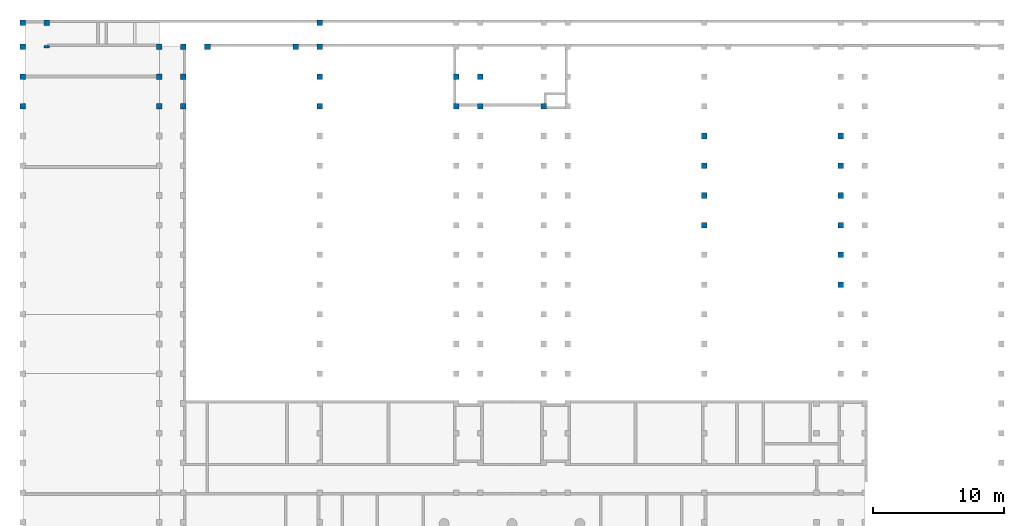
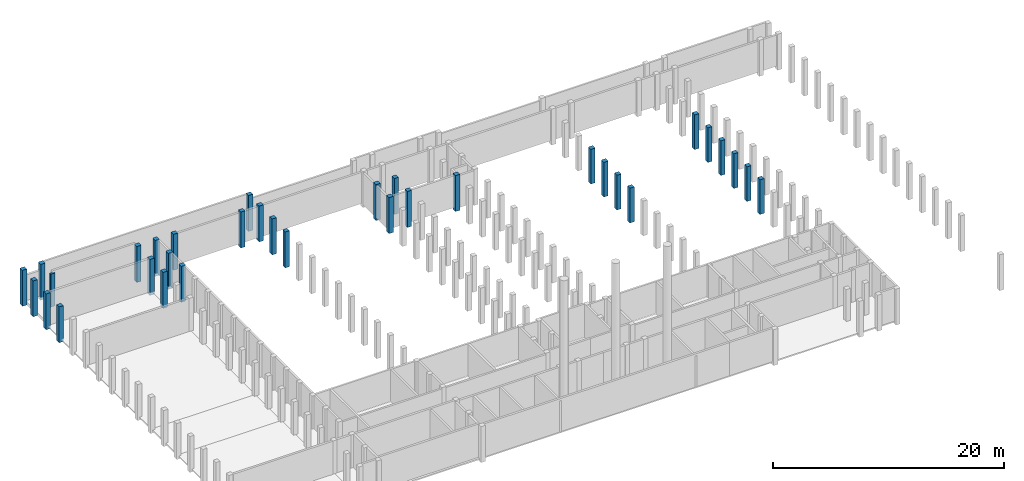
# One storey, part 5 of 9: 34 columns.
"""IFC2X3 building model written with IfcOpenShell, lengths in millimetres."""

from ifc_helpers import new_model, entity, si_unit, converted_unit, derived_unit, direction, frame, frame_2d, origin, origin_2d_with_axis, place, context, subcontext, project, spatial, polyline, rectangle, outline, extrude, source, transform, mapped, material, type_object, type_shapes, element, save


model = new_model("IFC2X3")

# Units and contexts
model_context = context("Model", 3, precision=0.01, world=origin(), true_north=direction((6.12303176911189e-17, 1.0)))
body_context = subcontext(model_context, "Body", "Model", "MODEL_VIEW")
ifc_project = project(units=[si_unit("LENGTHUNIT", "METRE", prefix="MILLI"), si_unit("AREAUNIT", "SQUARE_METRE"), si_unit("VOLUMEUNIT", "CUBIC_METRE"), converted_unit("PLANEANGLEUNIT", "DEGREE", entity("IfcRatioMeasure", 0.0174532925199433), si_unit("PLANEANGLEUNIT", "RADIAN"), dimensions=[0, 0, 0, 0, 0, 0, 0]), si_unit("MASSUNIT", "GRAM", prefix="KILO"), derived_unit("MASSDENSITYUNIT", [(si_unit("MASSUNIT", "GRAM", prefix="KILO"), 1), (si_unit("LENGTHUNIT", "METRE"), -3)]), derived_unit("MOMENTOFINERTIAUNIT", [(si_unit("LENGTHUNIT", "METRE"), 4)]), si_unit("TIMEUNIT", "SECOND"), si_unit("FREQUENCYUNIT", "HERTZ"), si_unit("THERMODYNAMICTEMPERATUREUNIT", "DEGREE_CELSIUS"), derived_unit("THERMALTRANSMITTANCEUNIT", [(si_unit("MASSUNIT", "GRAM", prefix="KILO"), 1), (si_unit("THERMODYNAMICTEMPERATUREUNIT", "KELVIN"), -1), (si_unit("TIMEUNIT", "SECOND"), -3)]), derived_unit("VOLUMETRICFLOWRATEUNIT", [(si_unit("LENGTHUNIT", "METRE"), 3), (si_unit("TIMEUNIT", "SECOND"), -1)]), si_unit("ELECTRICCURRENTUNIT", "AMPERE"), si_unit("ELECTRICVOLTAGEUNIT", "VOLT"), si_unit("POWERUNIT", "WATT"), si_unit("FORCEUNIT", "NEWTON", prefix="KILO"), si_unit("ILLUMINANCEUNIT", "LUX"), si_unit("LUMINOUSFLUXUNIT", "LUMEN"), si_unit("LUMINOUSINTENSITYUNIT", "CANDELA"), derived_unit("USERDEFINED", [(si_unit("MASSUNIT", "GRAM", prefix="KILO"), -1), (si_unit("LENGTHUNIT", "METRE"), -2), (si_unit("TIMEUNIT", "SECOND"), 3), (si_unit("LUMINOUSFLUXUNIT", "LUMEN"), 1)]), derived_unit("LINEARVELOCITYUNIT", [(si_unit("LENGTHUNIT", "METRE"), 1), (si_unit("TIMEUNIT", "SECOND"), -1)]), si_unit("PRESSUREUNIT", "PASCAL"), derived_unit("USERDEFINED", [(si_unit("LENGTHUNIT", "METRE"), -2), (si_unit("MASSUNIT", "GRAM", prefix="KILO"), 1), (si_unit("TIMEUNIT", "SECOND"), -2)]), derived_unit("LINEARFORCEUNIT", [(si_unit("MASSUNIT", "GRAM", prefix="KILO"), 1), (si_unit("LENGTHUNIT", "METRE"), 1), (si_unit("TIMEUNIT", "SECOND"), -2), (si_unit("LENGTHUNIT", "METRE"), -1)]), derived_unit("PLANARFORCEUNIT", [(si_unit("MASSUNIT", "GRAM", prefix="KILO"), 1), (si_unit("LENGTHUNIT", "METRE"), 1), (si_unit("TIMEUNIT", "SECOND"), -2), (si_unit("LENGTHUNIT", "METRE"), -2)])], contexts=[model_context])

# Site, building, storey
site_placement = place(None, frame((10627.5135316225, 21939.0796949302, 0.0)))
site = spatial("IfcSite", under=ifc_project, at=site_placement, Name="Default", CompositionType="ELEMENT")
building_placement = place(site_placement, origin())
building = spatial("IfcBuilding", under=site, at=building_placement, CompositionType="ELEMENT")
storey_placement = place(building_placement, frame((0.0, 0.0, -3500.0)))
storey = spatial("IfcBuildingStorey", under=building, at=storey_placement, Name="R-1", CompositionType="ELEMENT", Elevation=-3500.0)

# Columns
ifc_material_1 = material(Name="Concrete, Precast Smooth, Light Grey")
column_type_1 = type_object("IfcColumnType", Name="M_Precast-Square Column:430x430", PredefinedType="COLUMN", material=ifc_material_1)
shared_shape_1 = source(origin(), body_context, "Body", "SweptSolid", [
    extrude(rectangle(XDim=430.0, YDim=430.000000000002, at=frame_2d((0.0, -1.08002495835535e-12), x_axis=(1.0, 0.0))), frame((-10627.5135316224, 18310.9203050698, -3800.0), z_axis=(0.0, 0.0, 1.0), x_axis=(0.0, -1.0, 0.0)), (0.0, 0.0, 1.0), 3800.0),
])
type_shapes(column_type_1, [shared_shape_1])
column_1_placement = place(storey_placement, frame((0.0, 0.0, 3500.0)))
element("IfcColumn", 1, at=column_1_placement, inside=storey, type_object=column_type_1, material=ifc_material_1, Name="M_Precast-Square Column:430x430", ObjectType="M_Precast-Square Column:430x430", context=body_context, shape_type="MappedRepresentation", body=[
    mapped(shared_shape_1, transform((0.0, 0.0, 0.0), scale=1.0)),
])
column_type_2 = type_object("IfcColumnType", Name="M_Precast-Square Column:430x430", PredefinedType="COLUMN", material=ifc_material_1)
shared_shape_2 = source(origin(), body_context, "Body", "SweptSolid", [
    extrude(rectangle(XDim=430.0, YDim=429.999999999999, at=frame_2d((0.0, 5.40012479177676e-13), x_axis=(1.0, 0.0))), frame((-8797.51353162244, 18310.9203050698, -3800.0), z_axis=(0.0, 0.0, 1.0), x_axis=(0.0, -1.0, 0.0)), (0.0, 0.0, 1.0), 3800.0),
])
type_shapes(column_type_2, [shared_shape_2])
column_2_placement = place(storey_placement, frame((0.0, 0.0, 3500.0)))
element("IfcColumn", 2, at=column_2_placement, inside=storey, type_object=column_type_2, material=ifc_material_1, Name="M_Precast-Square Column:430x430", ObjectType="M_Precast-Square Column:430x430", context=body_context, shape_type="MappedRepresentation", body=[
    mapped(shared_shape_2, transform((0.0, 0.0, 0.0), scale=1.0)),
])
column_type_3 = type_object("IfcColumnType", Name="M_Precast-Square Column:430x430", PredefinedType="COLUMN", material=ifc_material_1)
shared_shape_3 = source(origin(), body_context, "Body", "SweptSolid", [
    extrude(rectangle(XDim=430.0, YDim=430.000000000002, at=frame_2d((0.0, -1.08002495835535e-12), x_axis=(1.0, 0.0))), frame((-10627.5135316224, 16480.9203050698, -3800.0), z_axis=(0.0, 0.0, 1.0), x_axis=(0.0, -1.0, 0.0)), (0.0, 0.0, 1.0), 3800.0),
])
type_shapes(column_type_3, [shared_shape_3])
column_3_placement = place(storey_placement, frame((0.0, 0.0, 3500.0)))
element("IfcColumn", 3, at=column_3_placement, inside=storey, type_object=column_type_3, material=ifc_material_1, Name="M_Precast-Square Column:430x430", ObjectType="M_Precast-Square Column:430x430", context=body_context, shape_type="MappedRepresentation", body=[
    mapped(shared_shape_3, transform((0.0, 0.0, 0.0), scale=1.0)),
])
column_type_4 = type_object("IfcColumnType", Name="M_Precast-Square Column:430x430", PredefinedType="COLUMN", material=ifc_material_1)
shared_shape_4 = source(origin(), body_context, "Body", "SweptSolid", [
    extrude(rectangle(XDim=430.0, YDim=430.000000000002, at=frame_2d((2.1600499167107e-12, -1.08002495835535e-12), x_axis=(1.0, 0.0))), frame((-10627.5135316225, 14220.9203050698, -3800.0), z_axis=(0.0, 0.0, 1.0), x_axis=(0.0, -1.0, 0.0)), (0.0, 0.0, 1.0), 3800.0),
])
type_shapes(column_type_4, [shared_shape_4])
column_4_placement = place(storey_placement, frame((0.0, 0.0, 3500.0)))
element("IfcColumn", 4, at=column_4_placement, inside=storey, type_object=column_type_4, material=ifc_material_1, Name="M_Precast-Square Column:430x430", ObjectType="M_Precast-Square Column:430x430", context=body_context, shape_type="MappedRepresentation", body=[
    mapped(shared_shape_4, transform((0.0, 0.0, 0.0), scale=1.0)),
])
column_type_5 = type_object("IfcColumnType", Name="M_Precast-Square Column:430x430", PredefinedType="COLUMN", material=ifc_material_1)
shared_shape_5 = source(origin(), body_context, "Body", "SweptSolid", [
    extrude(rectangle(XDim=430.0, YDim=430.000000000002, at=frame_2d((0.0, -1.08002495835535e-12), x_axis=(1.0, 0.0))), frame((-10627.5135316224, 11960.9203050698, -3800.0), z_axis=(0.0, 0.0, 1.0), x_axis=(0.0, -1.0, 0.0)), (0.0, 0.0, 1.0), 3800.0),
])
type_shapes(column_type_5, [shared_shape_5])
column_5_placement = place(storey_placement, frame((0.0, 0.0, 3500.0)))
element("IfcColumn", 5, at=column_5_placement, inside=storey, type_object=column_type_5, material=ifc_material_1, Name="M_Precast-Square Column:430x430", ObjectType="M_Precast-Square Column:430x430", context=body_context, shape_type="MappedRepresentation", body=[
    mapped(shared_shape_5, transform((0.0, 0.0, 0.0), scale=1.0)),
])
column_type_6 = type_object("IfcColumnType", Name="M_Precast-Square Column:430x430", PredefinedType="COLUMN", material=ifc_material_1)
shared_shape_6 = source(origin(), body_context, "Body", "SweptSolid", [
    extrude(rectangle(XDim=430.0, YDim=430.0, at=frame_2d((2.1600499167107e-12, 0.0), x_axis=(1.0, 0.0))), frame((-247.513531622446, 16480.9203050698, -3800.0), z_axis=(0.0, 0.0, 1.0), x_axis=(0.0, -1.0, 0.0)), (0.0, 0.0, 1.0), 3800.0),
])
type_shapes(column_type_6, [shared_shape_6])
column_6_placement = place(storey_placement, frame((0.0, 0.0, 3500.0)))
element("IfcColumn", 6, at=column_6_placement, inside=storey, type_object=column_type_6, material=ifc_material_1, Name="M_Precast-Square Column:430x430", ObjectType="M_Precast-Square Column:430x430", context=body_context, shape_type="MappedRepresentation", body=[
    mapped(shared_shape_6, transform((0.0, 0.0, 0.0), scale=1.0)),
])
column_type_7 = type_object("IfcColumnType", Name="M_Precast-Square Column:430x430", PredefinedType="COLUMN", material=ifc_material_1)
shared_shape_7 = source(origin(), body_context, "Body", "SweptSolid", [
    extrude(rectangle(XDim=430.0, YDim=430.0, at=origin_2d_with_axis()), frame((-247.51353162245, 14220.9203050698, -3800.0), z_axis=(0.0, 0.0, 1.0), x_axis=(0.0, -1.0, 0.0)), (0.0, 0.0, 1.0), 3800.0),
])
type_shapes(column_type_7, [shared_shape_7])
column_7_placement = place(storey_placement, frame((0.0, 0.0, 3500.0)))
element("IfcColumn", 7, at=column_7_placement, inside=storey, type_object=column_type_7, material=ifc_material_1, Name="M_Precast-Square Column:430x430", ObjectType="M_Precast-Square Column:430x430", context=body_context, shape_type="MappedRepresentation", body=[
    mapped(shared_shape_7, transform((0.0, 0.0, 0.0), scale=1.0)),
])
column_type_8 = type_object("IfcColumnType", Name="M_Precast-Square Column:430x430", PredefinedType="COLUMN", material=ifc_material_1)
shared_shape_8 = source(origin(), body_context, "Body", "SweptSolid", [
    extrude(rectangle(XDim=430.0, YDim=430.0, at=frame_2d((2.1600499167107e-12, 0.0), x_axis=(1.0, 0.0))), frame((-247.513531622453, 11960.9203050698, -3800.0), z_axis=(0.0, 0.0, 1.0), x_axis=(0.0, -1.0, 0.0)), (0.0, 0.0, 1.0), 3800.0),
])
type_shapes(column_type_8, [shared_shape_8])
column_8_placement = place(storey_placement, frame((0.0, 0.0, 3500.0)))
element("IfcColumn", 8, at=column_8_placement, inside=storey, type_object=column_type_8, material=ifc_material_1, Name="M_Precast-Square Column:430x430", ObjectType="M_Precast-Square Column:430x430", context=body_context, shape_type="MappedRepresentation", body=[
    mapped(shared_shape_8, transform((0.0, 0.0, 0.0), scale=1.0)),
])
column_type_9 = type_object("IfcColumnType", Name="M_Precast-Square Column:430x430", PredefinedType="COLUMN", material=ifc_material_1)
shared_shape_9 = source(origin(), body_context, "Body", "SweptSolid", [
    extrude(rectangle(XDim=430.0, YDim=429.999999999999, at=frame_2d((0.0, 2.8421709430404e-13), x_axis=(1.0, 0.0))), frame((1582.48646837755, 16480.9203050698, -3800.0), z_axis=(0.0, 0.0, 1.0), x_axis=(0.0, -1.0, 0.0)), (0.0, 0.0, 1.0), 3800.0),
])
type_shapes(column_type_9, [shared_shape_9])
column_9_placement = place(storey_placement, frame((0.0, 0.0, 3500.0)))
element("IfcColumn", 9, at=column_9_placement, inside=storey, type_object=column_type_9, material=ifc_material_1, Name="M_Precast-Square Column:430x430", ObjectType="M_Precast-Square Column:430x430", context=body_context, shape_type="MappedRepresentation", body=[
    mapped(shared_shape_9, transform((0.0, 0.0, 0.0), scale=1.0)),
])
column_type_10 = type_object("IfcColumnType", Name="M_Precast-Square Column:430x430", PredefinedType="COLUMN", material=ifc_material_1)
shared_shape_10 = source(origin(), body_context, "Body", "SweptSolid", [
    extrude(rectangle(XDim=430.0, YDim=430.0, at=frame_2d((2.1600499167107e-12, 1.4210854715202e-13), x_axis=(1.0, 0.0))), frame((1582.48646837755, 14220.9203050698, -3800.0), z_axis=(0.0, 0.0, 1.0), x_axis=(0.0, -1.0, 0.0)), (0.0, 0.0, 1.0), 3800.0),
])
type_shapes(column_type_10, [shared_shape_10])
column_10_placement = place(storey_placement, frame((0.0, 0.0, 3500.0)))
element("IfcColumn", 10, at=column_10_placement, inside=storey, type_object=column_type_10, material=ifc_material_1, Name="M_Precast-Square Column:430x430", ObjectType="M_Precast-Square Column:430x430", context=body_context, shape_type="MappedRepresentation", body=[
    mapped(shared_shape_10, transform((0.0, 0.0, 0.0), scale=1.0)),
])
column_type_11 = type_object("IfcColumnType", Name="M_Precast-Square Column:430x430", PredefinedType="COLUMN", material=ifc_material_1)
shared_shape_11 = source(origin(), body_context, "Body", "SweptSolid", [
    extrude(rectangle(XDim=430.0, YDim=430.0, at=frame_2d((0.0, -1.4210854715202e-13), x_axis=(1.0, 0.0))), frame((1582.48646837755, 11960.9203050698, -3800.0), z_axis=(0.0, 0.0, 1.0), x_axis=(0.0, -1.0, 0.0)), (0.0, 0.0, 1.0), 3800.0),
])
type_shapes(column_type_11, [shared_shape_11])
column_11_placement = place(storey_placement, frame((0.0, 0.0, 3500.0)))
element("IfcColumn", 11, at=column_11_placement, inside=storey, type_object=column_type_11, material=ifc_material_1, Name="M_Precast-Square Column:430x430", ObjectType="M_Precast-Square Column:430x430", context=body_context, shape_type="MappedRepresentation", body=[
    mapped(shared_shape_11, transform((0.0, 0.0, 0.0), scale=1.0)),
])
column_type_12 = type_object("IfcColumnType", Name="M_Precast-Square Column:430x430", PredefinedType="COLUMN", material=ifc_material_1)
shared_shape_12 = source(origin(), body_context, "Body", "SweptSolid", [
    extrude(rectangle(XDim=430.0, YDim=430.000000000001, at=frame_2d((0.0, 2.70006239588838e-13), x_axis=(1.0, 0.0))), frame((3412.48646837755, 16480.9203050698, -3800.0), z_axis=(0.0, 0.0, 1.0), x_axis=(0.0, -1.0, 0.0)), (0.0, 0.0, 1.0), 3800.0),
])
type_shapes(column_type_12, [shared_shape_12])
column_12_placement = place(storey_placement, frame((0.0, 0.0, 3500.0)))
element("IfcColumn", 12, at=column_12_placement, inside=storey, type_object=column_type_12, material=ifc_material_1, Name="M_Precast-Square Column:430x430", ObjectType="M_Precast-Square Column:430x430", context=body_context, shape_type="MappedRepresentation", body=[
    mapped(shared_shape_12, transform((0.0, 0.0, 0.0), scale=1.0)),
])
column_type_13 = type_object("IfcColumnType", Name="M_Precast-Square Column:430x430", PredefinedType="COLUMN", material=ifc_material_1)
shared_shape_13 = source(origin(), body_context, "Body", "SweptSolid", [
    extrude(rectangle(XDim=430.0, YDim=430.000000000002, at=frame_2d((0.0, -1.08002495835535e-12), x_axis=(1.0, 0.0))), frame((11962.4864683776, 16480.9203050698, -3800.0), z_axis=(0.0, 0.0, 1.0), x_axis=(0.0, -1.0, 0.0)), (0.0, 0.0, 1.0), 3800.0),
])
type_shapes(column_type_13, [shared_shape_13])
column_13_placement = place(storey_placement, frame((0.0, 0.0, 3500.0)))
element("IfcColumn", 13, at=column_13_placement, inside=storey, type_object=column_type_13, material=ifc_material_1, Name="M_Precast-Square Column:430x430", ObjectType="M_Precast-Square Column:430x430", context=body_context, shape_type="MappedRepresentation", body=[
    mapped(shared_shape_13, transform((0.0, 0.0, 0.0), scale=1.0)),
])
column_type_14 = type_object("IfcColumnType", Name="M_Precast-Square Column:430x430", PredefinedType="COLUMN", material=ifc_material_1)
shared_shape_14 = source(origin(), body_context, "Body", "SweptSolid", [
    extrude(rectangle(XDim=430.0, YDim=430.000000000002, at=frame_2d((2.1600499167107e-12, 1.08002495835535e-12), x_axis=(1.0, 0.0))), frame((11962.4864683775, 14220.9203050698, -3800.0), z_axis=(0.0, 0.0, 1.0), x_axis=(0.0, -1.0, 0.0)), (0.0, 0.0, 1.0), 3800.0),
])
type_shapes(column_type_14, [shared_shape_14])
column_14_placement = place(storey_placement, frame((0.0, 0.0, 3500.0)))
element("IfcColumn", 14, at=column_14_placement, inside=storey, type_object=column_type_14, material=ifc_material_1, Name="M_Precast-Square Column:430x430", ObjectType="M_Precast-Square Column:430x430", context=body_context, shape_type="MappedRepresentation", body=[
    mapped(shared_shape_14, transform((0.0, 0.0, 0.0), scale=1.0)),
])
column_type_15 = type_object("IfcColumnType", Name="M_Precast-Square Column:430x430", PredefinedType="COLUMN", material=ifc_material_1)
shared_shape_15 = source(origin(), body_context, "Body", "SweptSolid", [
    extrude(rectangle(XDim=430.0, YDim=430.000000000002, at=frame_2d((0.0, -1.08002495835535e-12), x_axis=(1.0, 0.0))), frame((11962.4864683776, 18310.9203050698, -3800.0), z_axis=(0.0, 0.0, 1.0), x_axis=(0.0, -1.0, 0.0)), (0.0, 0.0, 1.0), 3800.0),
])
type_shapes(column_type_15, [shared_shape_15])
column_15_placement = place(storey_placement, frame((0.0, 0.0, 3500.0)))
element("IfcColumn", 15, at=column_15_placement, inside=storey, type_object=column_type_15, material=ifc_material_1, Name="M_Precast-Square Column:430x430", ObjectType="M_Precast-Square Column:430x430", context=body_context, shape_type="MappedRepresentation", body=[
    mapped(shared_shape_15, transform((0.0, 0.0, 0.0), scale=1.0)),
])
column_type_16 = type_object("IfcColumnType", Name="M_Precast-Square Column:430x430", PredefinedType="COLUMN", material=ifc_material_1)
shared_shape_16 = source(origin(), body_context, "Body", "SweptSolid", [
    extrude(rectangle(XDim=430.0, YDim=430.000000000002, at=frame_2d((0.0, -1.08002495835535e-12), x_axis=(1.0, 0.0))), frame((11962.4864683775, 11960.9203050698, -3800.0), z_axis=(0.0, 0.0, 1.0), x_axis=(0.0, -1.0, 0.0)), (0.0, 0.0, 1.0), 3800.0),
])
type_shapes(column_type_16, [shared_shape_16])
column_16_placement = place(storey_placement, frame((0.0, 0.0, 3500.0)))
element("IfcColumn", 16, at=column_16_placement, inside=storey, type_object=column_type_16, material=ifc_material_1, Name="M_Precast-Square Column:430x430", ObjectType="M_Precast-Square Column:430x430", context=body_context, shape_type="MappedRepresentation", body=[
    mapped(shared_shape_16, transform((0.0, 0.0, 0.0), scale=1.0)),
])
column_type_17 = type_object("IfcColumnType", Name="M_Precast-Square Column:430x430", PredefinedType="COLUMN", material=ifc_material_1)
shared_shape_17 = source(origin(), body_context, "Body", "SweptSolid", [
    extrude(rectangle(XDim=430.0, YDim=429.999999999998, at=frame_2d((2.1600499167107e-12, 0.0), x_axis=(1.0, 0.0))), frame((22342.4864683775, 14220.9203050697, -3800.0), z_axis=(0.0, 0.0, 1.0), x_axis=(0.0, -1.0, 0.0)), (0.0, 0.0, 1.0), 3800.0),
])
type_shapes(column_type_17, [shared_shape_17])
column_17_placement = place(storey_placement, frame((0.0, 0.0, 3500.0)))
element("IfcColumn", 17, at=column_17_placement, inside=storey, type_object=column_type_17, material=ifc_material_1, Name="M_Precast-Square Column:430x430", ObjectType="M_Precast-Square Column:430x430", context=body_context, shape_type="MappedRepresentation", body=[
    mapped(shared_shape_17, transform((0.0, 0.0, 0.0), scale=1.0)),
])
column_type_18 = type_object("IfcColumnType", Name="M_Precast-Square Column:430x430", PredefinedType="COLUMN", material=ifc_material_1)
shared_shape_18 = source(origin(), body_context, "Body", "SweptSolid", [
    extrude(rectangle(XDim=430.0, YDim=429.999999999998, at=frame_2d((2.1600499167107e-12, 0.0), x_axis=(1.0, 0.0))), frame((22342.4864683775, 11960.9203050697, -3800.0), z_axis=(0.0, 0.0, 1.0), x_axis=(0.0, -1.0, 0.0)), (0.0, 0.0, 1.0), 3800.0),
])
type_shapes(column_type_18, [shared_shape_18])
column_18_placement = place(storey_placement, frame((0.0, 0.0, 3500.0)))
element("IfcColumn", 18, at=column_18_placement, inside=storey, type_object=column_type_18, material=ifc_material_1, Name="M_Precast-Square Column:430x430", ObjectType="M_Precast-Square Column:430x430", context=body_context, shape_type="MappedRepresentation", body=[
    mapped(shared_shape_18, transform((0.0, 0.0, 0.0), scale=1.0)),
])
column_type_19 = type_object("IfcColumnType", Name="M_Precast-Square Column:430x430", PredefinedType="COLUMN", material=ifc_material_1)
shared_shape_19 = source(origin(), body_context, "Body", "SweptSolid", [
    extrude(rectangle(XDim=430.0, YDim=429.999999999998, at=frame_2d((2.1600499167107e-12, 0.0), x_axis=(1.0, 0.0))), frame((24172.4864683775, 14220.9203050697, -3800.0), z_axis=(0.0, 0.0, 1.0), x_axis=(0.0, -1.0, 0.0)), (0.0, 0.0, 1.0), 3800.0),
])
type_shapes(column_type_19, [shared_shape_19])
column_19_placement = place(storey_placement, frame((0.0, 0.0, 3500.0)))
element("IfcColumn", 19, at=column_19_placement, inside=storey, type_object=column_type_19, material=ifc_material_1, Name="M_Precast-Square Column:430x430", ObjectType="M_Precast-Square Column:430x430", context=body_context, shape_type="MappedRepresentation", body=[
    mapped(shared_shape_19, transform((0.0, 0.0, 0.0), scale=1.0)),
])
column_type_20 = type_object("IfcColumnType", Name="M_Precast-Square Column:430x430", PredefinedType="COLUMN", material=ifc_material_1)
shared_shape_20 = source(origin(), body_context, "Body", "SweptSolid", [
    extrude(rectangle(XDim=430.0, YDim=429.999999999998, at=origin_2d_with_axis()), frame((24172.4864683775, 11960.9203050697, -3800.0), z_axis=(0.0, 0.0, 1.0), x_axis=(0.0, -1.0, 0.0)), (0.0, 0.0, 1.0), 3800.0),
])
type_shapes(column_type_20, [shared_shape_20])
column_20_placement = place(storey_placement, frame((0.0, 0.0, 3500.0)))
element("IfcColumn", 20, at=column_20_placement, inside=storey, type_object=column_type_20, material=ifc_material_1, Name="M_Precast-Square Column:430x430", ObjectType="M_Precast-Square Column:430x430", context=body_context, shape_type="MappedRepresentation", body=[
    mapped(shared_shape_20, transform((0.0, 0.0, 0.0), scale=1.0)),
])
column_type_21 = type_object("IfcColumnType", Name="M_Precast-Square Column:430x430", PredefinedType="COLUMN", material=ifc_material_1)
shared_shape_21 = source(origin(), body_context, "Body", "SweptSolid", [
    extrude(rectangle(XDim=430.0, YDim=430.000000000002, at=frame_2d((2.1600499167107e-12, -1.08002495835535e-12), x_axis=(1.0, 0.0))), frame((10132.4864683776, 16480.9203050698, -3800.0), z_axis=(0.0, 0.0, 1.0), x_axis=(0.0, -1.0, 0.0)), (0.0, 0.0, 1.0), 3800.0),
])
type_shapes(column_type_21, [shared_shape_21])
column_21_placement = place(storey_placement, frame((0.0, 0.0, 3500.0)))
element("IfcColumn", 21, at=column_21_placement, inside=storey, type_object=column_type_21, material=ifc_material_1, Name="M_Precast-Square Column:430x430", ObjectType="M_Precast-Square Column:430x430", context=body_context, shape_type="MappedRepresentation", body=[
    mapped(shared_shape_21, transform((0.0, 0.0, 0.0), scale=1.0)),
])
column_type_22 = type_object("IfcColumnType", Name="M_Precast-Square Column:430x430", PredefinedType="COLUMN", material=ifc_material_1)
shared_shape_22 = source(origin(), body_context, "Body", "SweptSolid", [
    extrude(rectangle(XDim=430.0, YDim=429.999999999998, at=frame_2d((-1.08002495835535e-12, 0.0), x_axis=(1.0, 0.0))), frame((28982.4864683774, 11960.9203050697, -3800.0), z_axis=(0.0, 0.0, 1.0), x_axis=(0.0, -1.0, 0.0)), (0.0, 0.0, 1.0), 3800.0),
])
type_shapes(column_type_22, [shared_shape_22])
column_22_placement = place(storey_placement, frame((0.0, 0.0, 3500.0)))
element("IfcColumn", 22, at=column_22_placement, inside=storey, type_object=column_type_22, material=ifc_material_1, Name="M_Precast-Square Column:430x430", ObjectType="M_Precast-Square Column:430x430", context=body_context, shape_type="MappedRepresentation", body=[
    mapped(shared_shape_22, transform((0.0, 0.0, 0.0), scale=1.0)),
])
column_type_23 = type_object("IfcColumnType", Name="M_Precast-Square Column:430x430", PredefinedType="COLUMN", material=ifc_material_1)
shared_shape_23 = source(origin(), body_context, "Body", "SweptSolid", [
    extrude(rectangle(XDim=430.0, YDim=430.000000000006, at=frame_2d((0.0, -8.66862137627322e-12), x_axis=(1.0, 0.0))), frame((51572.4864683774, 9700.9203050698, -3800.0), z_axis=(0.0, 0.0, 1.0), x_axis=(0.0, -1.0, 0.0)), (0.0, 0.0, 1.0), 3670.0),
])
type_shapes(column_type_23, [shared_shape_23])
column_23_placement = place(storey_placement, frame((0.0, 0.0, 3500.0)))
element("IfcColumn", 23, at=column_23_placement, inside=storey, type_object=column_type_23, material=ifc_material_1, Name="M_Precast-Square Column:430x430", ObjectType="M_Precast-Square Column:430x430", context=body_context, shape_type="MappedRepresentation", body=[
    mapped(shared_shape_23, transform((0.0, 0.0, 0.0), scale=1.0)),
])
column_type_24 = type_object("IfcColumnType", Name="M_Precast-Square Column:430x430", PredefinedType="COLUMN", material=ifc_material_1)
shared_shape_24 = source(origin(), body_context, "Body", "SweptSolid", [
    extrude(rectangle(XDim=430.000000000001, YDim=430.000000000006, at=frame_2d((5.40012479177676e-13, -8.66862137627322e-12), x_axis=(1.0, 0.0))), frame((41192.4864683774, 9700.92030506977, -3800.0), z_axis=(0.0, 0.0, 1.0), x_axis=(0.0, -1.0, 0.0)), (0.0, 0.0, 1.0), 3670.0),
])
type_shapes(column_type_24, [shared_shape_24])
column_24_placement = place(storey_placement, frame((0.0, 0.0, 3500.0)))
element("IfcColumn", 24, at=column_24_placement, inside=storey, type_object=column_type_24, material=ifc_material_1, Name="M_Precast-Square Column:430x430", ObjectType="M_Precast-Square Column:430x430", context=body_context, shape_type="MappedRepresentation", body=[
    mapped(shared_shape_24, transform((0.0, 0.0, 0.0), scale=1.0)),
])
column_type_25 = type_object("IfcColumnType", Name="M_Precast-Square Column:430x430", PredefinedType="COLUMN", material=ifc_material_1)
shared_shape_25 = source(origin(), body_context, "Body", "SweptSolid", [
    extrude(rectangle(XDim=430.0, YDim=430.000000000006, at=origin_2d_with_axis()), frame((51572.4864683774, 7440.9203050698, -3800.0), z_axis=(0.0, 0.0, 1.0), x_axis=(0.0, -1.0, 0.0)), (0.0, 0.0, 1.0), 3670.0),
])
type_shapes(column_type_25, [shared_shape_25])
column_25_placement = place(storey_placement, frame((0.0, 0.0, 3500.0)))
element("IfcColumn", 25, at=column_25_placement, inside=storey, type_object=column_type_25, material=ifc_material_1, Name="M_Precast-Square Column:430x430", ObjectType="M_Precast-Square Column:430x430", context=body_context, shape_type="MappedRepresentation", body=[
    mapped(shared_shape_25, transform((0.0, 0.0, 0.0), scale=1.0)),
])
column_type_26 = type_object("IfcColumnType", Name="M_Precast-Square Column:430x430", PredefinedType="COLUMN", material=ifc_material_1)
shared_shape_26 = source(origin(), body_context, "Body", "SweptSolid", [
    extrude(rectangle(XDim=430.0, YDim=430.000000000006, at=origin_2d_with_axis()), frame((41192.4864683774, 7440.92030506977, -3800.0), z_axis=(0.0, 0.0, 1.0), x_axis=(0.0, -1.0, 0.0)), (0.0, 0.0, 1.0), 3670.0),
])
type_shapes(column_type_26, [shared_shape_26])
column_26_placement = place(storey_placement, frame((0.0, 0.0, 3500.0)))
element("IfcColumn", 26, at=column_26_placement, inside=storey, type_object=column_type_26, material=ifc_material_1, Name="M_Precast-Square Column:430x430", ObjectType="M_Precast-Square Column:430x430", context=body_context, shape_type="MappedRepresentation", body=[
    mapped(shared_shape_26, transform((0.0, 0.0, 0.0), scale=1.0)),
])
column_type_27 = type_object("IfcColumnType", Name="M_Precast-Square Column:430x430", PredefinedType="COLUMN", material=ifc_material_1)
shared_shape_27 = source(origin(), body_context, "Body", "SweptSolid", [
    extrude(rectangle(XDim=430.0, YDim=430.000000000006, at=origin_2d_with_axis()), frame((51572.4864683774, 5180.9203050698, -3800.0), z_axis=(0.0, 0.0, 1.0), x_axis=(0.0, -1.0, 0.0)), (0.0, 0.0, 1.0), 3670.0),
])
type_shapes(column_type_27, [shared_shape_27])
column_27_placement = place(storey_placement, frame((0.0, 0.0, 3500.0)))
element("IfcColumn", 27, at=column_27_placement, inside=storey, type_object=column_type_27, material=ifc_material_1, Name="M_Precast-Square Column:430x430", ObjectType="M_Precast-Square Column:430x430", context=body_context, shape_type="MappedRepresentation", body=[
    mapped(shared_shape_27, transform((0.0, 0.0, 0.0), scale=1.0)),
])
column_type_28 = type_object("IfcColumnType", Name="M_Precast-Square Column:430x430", PredefinedType="COLUMN", material=ifc_material_1)
shared_shape_28 = source(origin(), body_context, "Body", "SweptSolid", [
    extrude(rectangle(XDim=430.0, YDim=430.000000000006, at=origin_2d_with_axis()), frame((41192.4864683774, 5180.92030506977, -3800.0), z_axis=(0.0, 0.0, 1.0), x_axis=(0.0, -1.0, 0.0)), (0.0, 0.0, 1.0), 3670.0),
])
type_shapes(column_type_28, [shared_shape_28])
column_28_placement = place(storey_placement, frame((0.0, 0.0, 3500.0)))
element("IfcColumn", 28, at=column_28_placement, inside=storey, type_object=column_type_28, material=ifc_material_1, Name="M_Precast-Square Column:430x430", ObjectType="M_Precast-Square Column:430x430", context=body_context, shape_type="MappedRepresentation", body=[
    mapped(shared_shape_28, transform((0.0, 0.0, 0.0), scale=1.0)),
])
column_type_29 = type_object("IfcColumnType", Name="M_Precast-Square Column:430x430", PredefinedType="COLUMN", material=ifc_material_1)
shared_shape_29 = source(origin(), body_context, "Body", "SweptSolid", [
    extrude(rectangle(XDim=430.0, YDim=430.000000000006, at=origin_2d_with_axis()), frame((51572.4864683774, 2920.9203050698, -3800.0), z_axis=(0.0, 0.0, 1.0), x_axis=(0.0, -1.0, 0.0)), (0.0, 0.0, 1.0), 3670.0),
])
type_shapes(column_type_29, [shared_shape_29])
column_29_placement = place(storey_placement, frame((0.0, 0.0, 3500.0)))
element("IfcColumn", 29, at=column_29_placement, inside=storey, type_object=column_type_29, material=ifc_material_1, Name="M_Precast-Square Column:430x430", ObjectType="M_Precast-Square Column:430x430", context=body_context, shape_type="MappedRepresentation", body=[
    mapped(shared_shape_29, transform((0.0, 0.0, 0.0), scale=1.0)),
])
column_type_30 = type_object("IfcColumnType", Name="M_Precast-Square Column:430x430", PredefinedType="COLUMN", material=ifc_material_1)
shared_shape_30 = source(origin(), body_context, "Body", "SweptSolid", [
    extrude(rectangle(XDim=430.0, YDim=430.000000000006, at=origin_2d_with_axis()), frame((41192.4864683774, 2920.92030506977, -3800.0), z_axis=(0.0, 0.0, 1.0), x_axis=(0.0, -1.0, 0.0)), (0.0, 0.0, 1.0), 3670.0),
])
type_shapes(column_type_30, [shared_shape_30])
column_30_placement = place(storey_placement, frame((0.0, 0.0, 3500.0)))
element("IfcColumn", 30, at=column_30_placement, inside=storey, type_object=column_type_30, material=ifc_material_1, Name="M_Precast-Square Column:430x430", ObjectType="M_Precast-Square Column:430x430", context=body_context, shape_type="MappedRepresentation", body=[
    mapped(shared_shape_30, transform((0.0, 0.0, 0.0), scale=1.0)),
])
column_type_31 = type_object("IfcColumnType", Name="M_Precast-Square Column:430x430", PredefinedType="COLUMN", material=ifc_material_1)
shared_shape_31 = source(origin(), body_context, "Body", "SweptSolid", [
    extrude(rectangle(XDim=430.0, YDim=430.000000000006, at=frame_2d((7.105427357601e-14, 0.0), x_axis=(1.0, 0.0))), frame((51572.4864683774, 660.920305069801, -3800.0), z_axis=(0.0, 0.0, 1.0), x_axis=(0.0, -1.0, 0.0)), (0.0, 0.0, 1.0), 3670.0),
])
type_shapes(column_type_31, [shared_shape_31])
column_31_placement = place(storey_placement, frame((0.0, 0.0, 3500.0)))
element("IfcColumn", 31, at=column_31_placement, inside=storey, type_object=column_type_31, material=ifc_material_1, Name="M_Precast-Square Column:430x430", ObjectType="M_Precast-Square Column:430x430", context=body_context, shape_type="MappedRepresentation", body=[
    mapped(shared_shape_31, transform((0.0, 0.0, 0.0), scale=1.0)),
])
column_type_32 = type_object("IfcColumnType", Name="M_Precast-Square Column:430x430", PredefinedType="COLUMN", material=ifc_material_1)
shared_shape_32 = source(origin(), body_context, "Body", "SweptSolid", [
    extrude(rectangle(XDim=430.0, YDim=430.000000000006, at=frame_2d((1.4210854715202e-13, 0.0), x_axis=(1.0, 0.0))), frame((51572.4864683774, -1599.0796949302, -3800.0), z_axis=(0.0, 0.0, 1.0), x_axis=(0.0, -1.0, 0.0)), (0.0, 0.0, 1.0), 3670.0),
])
type_shapes(column_type_32, [shared_shape_32])
column_32_placement = place(storey_placement, frame((0.0, 0.0, 3500.0)))
element("IfcColumn", 32, at=column_32_placement, inside=storey, type_object=column_type_32, material=ifc_material_1, Name="M_Precast-Square Column:430x430", ObjectType="M_Precast-Square Column:430x430", context=body_context, shape_type="MappedRepresentation", body=[
    mapped(shared_shape_32, transform((0.0, 0.0, 0.0), scale=1.0)),
])
column_type_33 = type_object("IfcColumnType", Name="M_Precast-Square Column:430x430", PredefinedType="COLUMN", material=ifc_material_1)
shared_shape_33 = source(origin(), body_context, "Body", "SweptSolid", [
    extrude(rectangle(XDim=430.000000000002, YDim=430.0, at=frame_2d((-2.1600499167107e-12, 0.0), x_axis=(1.0, 0.0))), frame((-247.513531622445, 16480.9203050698, -3800.0), z_axis=(0.0, 0.0, 1.0), x_axis=(0.0, -1.0, 0.0)), (0.0, 0.0, 1.0), 3800.0),
])
type_shapes(column_type_33, [shared_shape_33])
column_33_placement = place(storey_placement, frame((0.0, 0.0, 3500.0)))
element("IfcColumn", 33, at=column_33_placement, inside=storey, type_object=column_type_33, material=ifc_material_1, Name="M_Precast-Square Column:430x430", ObjectType="M_Precast-Square Column:430x430", context=body_context, shape_type="MappedRepresentation", body=[
    mapped(shared_shape_33, transform((0.0, 0.0, 0.0), scale=1.0)),
])
ifc_material_2 = material(Name="Concrete - Precast Concrete - 35 MPa")
column_type_34 = type_object("IfcColumnType", Name="M_Precast-Rectangular Column:430X200", PredefinedType="COLUMN", material=ifc_material_2)
shared_shape_34 = source(origin(), body_context, "Body", "SweptSolid", [
    extrude(outline(polyline([(-75.0, -215.0), (75.0, -215.0), (100.0, -190.0), (100.0, 190.0), (75.0, 215.0), (-75.0, 215.0), (-100.0, 190.0), (-100.0, -190.0), (-75.0, -215.0)])), frame((0.0, 0.0, -3502.0), z_axis=(0.0, 0.0, 1.0), x_axis=(0.0, -1.0, 0.0)), (0.0, 0.0, 1.0), 3502.0),
])
type_shapes(column_type_34, [shared_shape_34])
column_34_placement = place(storey_placement, frame((-8797.51353162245, 16480.9203050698, 3500.0)))
element("IfcColumn", 34, at=column_34_placement, inside=storey, type_object=column_type_34, material=ifc_material_2, Name="M_Precast-Rectangular Column:430X200", ObjectType="M_Precast-Rectangular Column:430X200", context=body_context, shape_type="MappedRepresentation", body=[
    mapped(shared_shape_34, transform((0.0, 0.0, 0.0), scale=1.0)),
])

save(model, "model.ifc")
